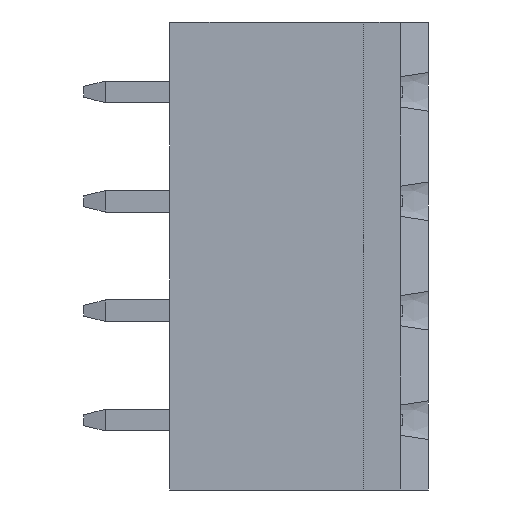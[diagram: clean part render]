
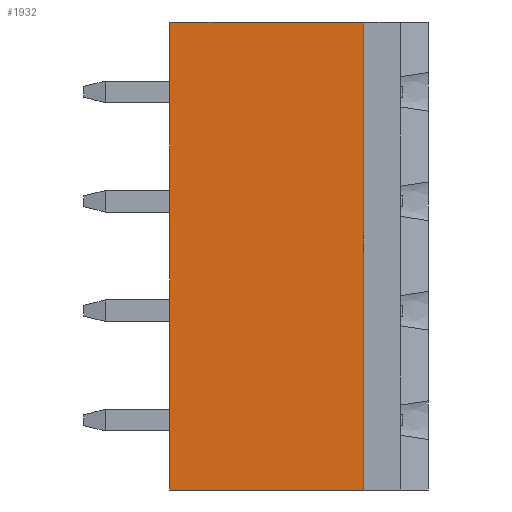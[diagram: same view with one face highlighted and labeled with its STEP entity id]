
A CAD part, left-side view. The second image highlights one B-rep face of the part: STEP entity #1932.
In plain terms, the highlighted planar face has unit normal (-1, 0, 0).
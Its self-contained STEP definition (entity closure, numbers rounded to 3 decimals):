
#1932 = ADVANCED_FACE('',(#1933),#1947,.T.);
#1933 = FACE_BOUND('',#1934,.F.);
#1934 = EDGE_LOOP('',(#1935,#1958,#1974,#1990));
#1935 = ORIENTED_EDGE('',*,*,#1936,.T.);
#1936 = EDGE_CURVE('',#1937,#1939,#1941,.T.);
#1937 = VERTEX_POINT('',#1938);
#1938 = CARTESIAN_POINT('',(-3.9,12.,-0.7));
#1939 = VERTEX_POINT('',#1940);
#1940 = CARTESIAN_POINT('',(-3.9,12.,21.02));
#1941 = SURFACE_CURVE('',#1942,(#1946),.PCURVE_S1.);
#1942 = LINE('',#1943,#1944);
#1943 = CARTESIAN_POINT('',(-3.9,12.,-0.7));
#1944 = VECTOR('',#1945,1.);
#1945 = DIRECTION('',(0.,0.,1.));
#1946 = PCURVE('',#1947,#1952);
#1947 = PLANE('',#1948);
#1948 = AXIS2_PLACEMENT_3D('',#1949,#1950,#1951);
#1949 = CARTESIAN_POINT('',(-3.9,12.,0.));
#1950 = DIRECTION('',(-1.,0.,0.));
#1951 = DIRECTION('',(0.,-1.,0.));
#1952 = DEFINITIONAL_REPRESENTATION('',(#1953),#1957);
#1953 = LINE('',#1954,#1955);
#1954 = CARTESIAN_POINT('',(0.,-0.7));
#1955 = VECTOR('',#1956,1.);
#1956 = DIRECTION('',(0.,1.));
#1957 = ( GEOMETRIC_REPRESENTATION_CONTEXT(2) 
PARAMETRIC_REPRESENTATION_CONTEXT() REPRESENTATION_CONTEXT('2D SPACE',''
  ) );
#1958 = ORIENTED_EDGE('',*,*,#1959,.T.);
#1959 = EDGE_CURVE('',#1939,#1960,#1962,.T.);
#1960 = VERTEX_POINT('',#1961);
#1961 = CARTESIAN_POINT('',(-3.9,3.,21.02));
#1962 = SURFACE_CURVE('',#1963,(#1967),.PCURVE_S1.);
#1963 = LINE('',#1964,#1965);
#1964 = CARTESIAN_POINT('',(-3.9,12.,21.02));
#1965 = VECTOR('',#1966,1.);
#1966 = DIRECTION('',(0.,-1.,0.));
#1967 = PCURVE('',#1947,#1968);
#1968 = DEFINITIONAL_REPRESENTATION('',(#1969),#1973);
#1969 = LINE('',#1970,#1971);
#1970 = CARTESIAN_POINT('',(0.,21.02));
#1971 = VECTOR('',#1972,1.);
#1972 = DIRECTION('',(1.,0.));
#1973 = ( GEOMETRIC_REPRESENTATION_CONTEXT(2) 
PARAMETRIC_REPRESENTATION_CONTEXT() REPRESENTATION_CONTEXT('2D SPACE',''
  ) );
#1974 = ORIENTED_EDGE('',*,*,#1975,.T.);
#1975 = EDGE_CURVE('',#1960,#1976,#1978,.T.);
#1976 = VERTEX_POINT('',#1977);
#1977 = CARTESIAN_POINT('',(-3.9,3.,-0.7));
#1978 = SURFACE_CURVE('',#1979,(#1983),.PCURVE_S1.);
#1979 = LINE('',#1980,#1981);
#1980 = CARTESIAN_POINT('',(-3.9,3.,21.02));
#1981 = VECTOR('',#1982,1.);
#1982 = DIRECTION('',(0.,0.,-1.));
#1983 = PCURVE('',#1947,#1984);
#1984 = DEFINITIONAL_REPRESENTATION('',(#1985),#1989);
#1985 = LINE('',#1986,#1987);
#1986 = CARTESIAN_POINT('',(9.,21.02));
#1987 = VECTOR('',#1988,1.);
#1988 = DIRECTION('',(0.,-1.));
#1989 = ( GEOMETRIC_REPRESENTATION_CONTEXT(2) 
PARAMETRIC_REPRESENTATION_CONTEXT() REPRESENTATION_CONTEXT('2D SPACE',''
  ) );
#1990 = ORIENTED_EDGE('',*,*,#1991,.F.);
#1991 = EDGE_CURVE('',#1937,#1976,#1992,.T.);
#1992 = SURFACE_CURVE('',#1993,(#1997),.PCURVE_S1.);
#1993 = LINE('',#1994,#1995);
#1994 = CARTESIAN_POINT('',(-3.9,12.,-0.7));
#1995 = VECTOR('',#1996,1.);
#1996 = DIRECTION('',(0.,-1.,0.));
#1997 = PCURVE('',#1947,#1998);
#1998 = DEFINITIONAL_REPRESENTATION('',(#1999),#2003);
#1999 = LINE('',#2000,#2001);
#2000 = CARTESIAN_POINT('',(0.,-0.7));
#2001 = VECTOR('',#2002,1.);
#2002 = DIRECTION('',(1.,0.));
#2003 = ( GEOMETRIC_REPRESENTATION_CONTEXT(2) 
PARAMETRIC_REPRESENTATION_CONTEXT() REPRESENTATION_CONTEXT('2D SPACE',''
  ) );
